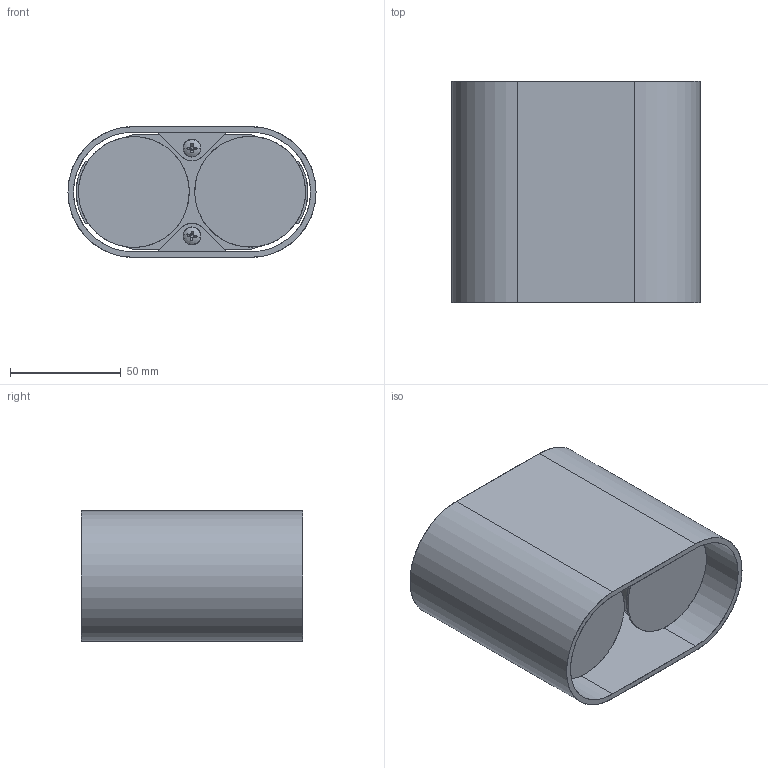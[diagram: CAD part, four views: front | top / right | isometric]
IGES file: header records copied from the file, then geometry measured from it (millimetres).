
Start section: SolidWorks IGES file using analytic representation for surfaces
Global section: file name: E:\3D lampy\Pag\Pag_9386,9387.IGS; native system: SolidWorks 2017; preprocessor: SolidWorks 2017; author: Asia; date: 180302.132437; units: millimetre
Bounding box: 112 x 100 x 59 mm (x, y, z)
Surface area: 98483 mm2 (no closed solid volume)
Topology: 0 solids, 0 shells, 647 faces, 15206 edges, 18356 vertices
Faces by surface type: bspline 394, revolution 253
